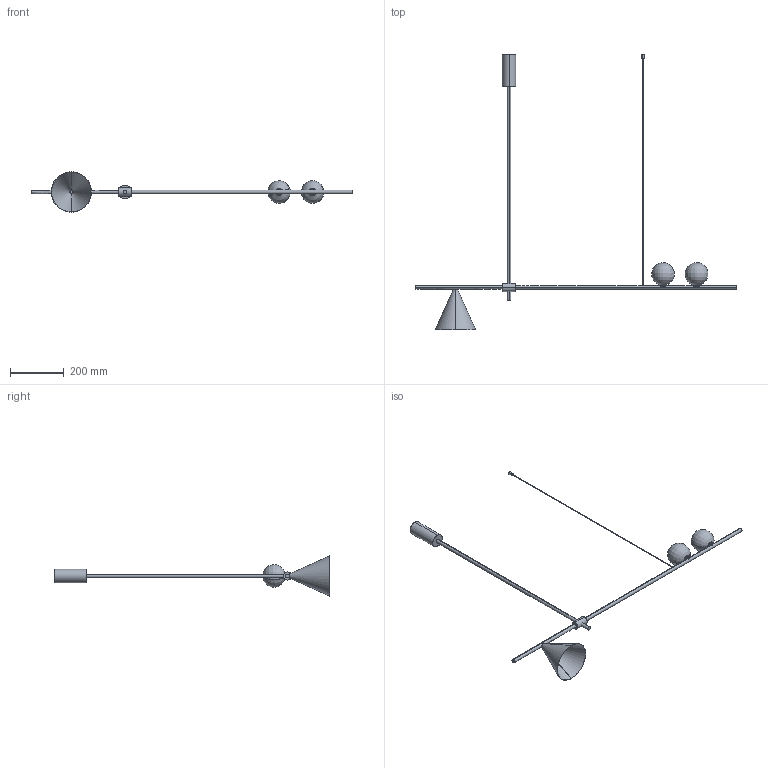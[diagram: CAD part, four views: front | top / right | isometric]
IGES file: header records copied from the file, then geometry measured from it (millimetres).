
Start section: SolidWorks IGES file using analytic representation for surfaces
Global section: file name: C:\Users\Agus\Desktop\AROMAS\Propuestas Aromas 2017\Propuesta Pepe\OK\Equilibrio\Colgante\Equilibrio cono 15\C1241.IGS; native system: SolidWorks 2016; preprocessor: SolidWorks 2016; author: Agus; date: 180216.104411; units: millimetre
Bounding box: 1200 x 1027 x 150 mm (x, y, z)
Surface area: 299336.2 mm2 (no closed solid volume)
Topology: 0 solids, 0 shells, 116 faces, 1973 edges, 1966 vertices
Faces by surface type: bspline 60, revolution 56
